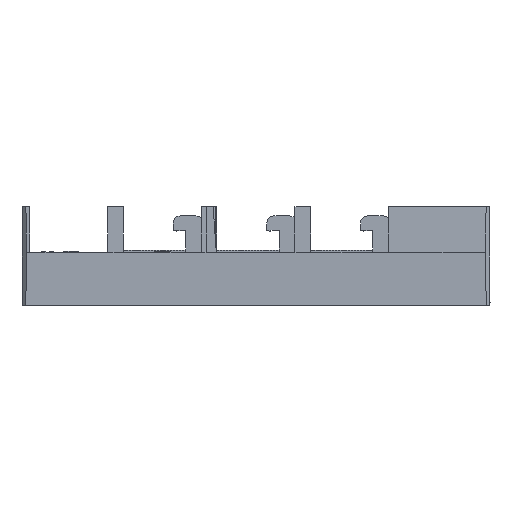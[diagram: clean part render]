
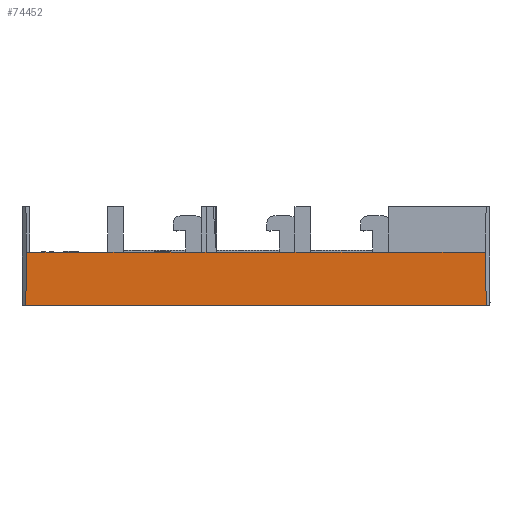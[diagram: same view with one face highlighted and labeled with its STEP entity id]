
A CAD part, front view. The second image highlights one B-rep face of the part: STEP entity #74452.
In plain terms, the highlighted planar face has unit normal (0, -1, -0.018).
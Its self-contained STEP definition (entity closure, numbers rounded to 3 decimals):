
#154 = CARTESIAN_POINT ( 'NONE',  ( 150., 0., -29. ) ) ;
#1019 = VECTOR ( 'NONE', #1410, 1000. ) ;
#1154 = VECTOR ( 'NONE', #34056, 1000. ) ;
#1410 = DIRECTION ( 'NONE',  ( -1., 0., 0. ) ) ;
#1574 = LINE ( 'NONE', #46582, #47438 ) ;
#1876 = PLANE ( 'NONE',  #106132 ) ;
#2160 = CARTESIAN_POINT ( 'NONE',  ( -2.044, 0., -29. ) ) ;
#3357 = EDGE_CURVE ( 'NONE', #7549, #37513, #43666, .T. ) ;
#6882 = VERTEX_POINT ( 'NONE', #92789 ) ;
#7549 = VERTEX_POINT ( 'NONE', #88640 ) ;
#9303 = LINE ( 'NONE', #30836, #30852 ) ;
#10624 = CARTESIAN_POINT ( 'NONE',  ( -2.044, 0., -29. ) ) ;
#11079 = DIRECTION ( 'NONE',  ( 0., -1., -0.017 ) ) ;
#13973 = EDGE_CURVE ( 'NONE', #37945, #118918, #17954, .T. ) ;
#17954 = LINE ( 'NONE', #91052, #88229 ) ;
#19338 = DIRECTION ( 'NONE',  ( 1., 0., 0. ) ) ;
#20402 = VERTEX_POINT ( 'NONE', #91091 ) ;
#20589 = CARTESIAN_POINT ( 'NONE',  ( 175., 0., -29. ) ) ;
#21362 = VERTEX_POINT ( 'NONE', #23190 ) ;
#22880 = VECTOR ( 'NONE', #78583, 1000. ) ;
#23190 = CARTESIAN_POINT ( 'NONE',  ( 118., 0., -29. ) ) ;
#25598 = CARTESIAN_POINT ( 'NONE',  ( -2.044, 0., -29. ) ) ;
#26398 = EDGE_CURVE ( 'NONE', #71722, #6882, #57553, .T. ) ;
#28693 = VECTOR ( 'NONE', #109434, 1000. ) ;
#30226 = VECTOR ( 'NONE', #45847, 1000. ) ;
#30751 = DIRECTION ( 'NONE',  ( -1., 0., 0. ) ) ;
#30836 = CARTESIAN_POINT ( 'NONE',  ( -2.044, 0., -29. ) ) ;
#30852 = VECTOR ( 'NONE', #93722, 1000. ) ;
#31934 = CARTESIAN_POINT ( 'NONE',  ( 297.593, 0.593, -63. ) ) ;
#32102 = ORIENTED_EDGE ( 'NONE', *, *, #63064, .T. ) ;
#32196 = DIRECTION ( 'NONE',  ( -0.017, -0.017, 1. ) ) ;
#34056 = DIRECTION ( 'NONE',  ( -1., 0., 0. ) ) ;
#36680 = CARTESIAN_POINT ( 'NONE',  ( 185., 0., -29. ) ) ;
#37513 = VERTEX_POINT ( 'NONE', #36680 ) ;
#37773 = ORIENTED_EDGE ( 'NONE', *, *, #13973, .T. ) ;
#37945 = VERTEX_POINT ( 'NONE', #43376 ) ;
#38642 = DIRECTION ( 'NONE',  ( -1., 0., 0. ) ) ;
#39475 = EDGE_LOOP ( 'NONE', ( #102449, #37773, #93204, #84647, #56278, #73470, #53663, #99179, #78578, #32102, #100368, #69255 ) ) ;
#42861 = CARTESIAN_POINT ( 'NONE',  ( 2.407, 0.593, -63. ) ) ;
#43376 = CARTESIAN_POINT ( 'NONE',  ( 5., 0., -29. ) ) ;
#43666 = LINE ( 'NONE', #2160, #86701 ) ;
#45847 = DIRECTION ( 'NONE',  ( 1., 0., 0. ) ) ;
#46582 = CARTESIAN_POINT ( 'NONE',  ( -2.044, 0.593, -63. ) ) ;
#47438 = VECTOR ( 'NONE', #19338, 1000. ) ;
#48674 = EDGE_CURVE ( 'NONE', #118918, #72944, #105383, .T. ) ;
#49526 = VECTOR ( 'NONE', #97892, 1000. ) ;
#50245 = VERTEX_POINT ( 'NONE', #20589 ) ;
#53024 = LINE ( 'NONE', #91025, #28693 ) ;
#53663 = ORIENTED_EDGE ( 'NONE', *, *, #3357, .T. ) ;
#54515 = LINE ( 'NONE', #154, #30226 ) ;
#56192 = VECTOR ( 'NONE', #32196, 1000. ) ;
#56278 = ORIENTED_EDGE ( 'NONE', *, *, #26398, .T. ) ;
#57553 = LINE ( 'NONE', #87870, #56192 ) ;
#60131 = CARTESIAN_POINT ( 'NONE',  ( 55., 0., -29. ) ) ;
#61728 = VERTEX_POINT ( 'NONE', #84241 ) ;
#63064 = EDGE_CURVE ( 'NONE', #21362, #20402, #64291, .T. ) ;
#63324 = DIRECTION ( 'NONE',  ( -1., 0., 0. ) ) ;
#64291 = LINE ( 'NONE', #70939, #22880 ) ;
#67470 = EDGE_CURVE ( 'NONE', #72944, #71722, #1574, .T. ) ;
#69255 = ORIENTED_EDGE ( 'NONE', *, *, #104911, .T. ) ;
#70939 = CARTESIAN_POINT ( 'NONE',  ( -2.044, 0., -29. ) ) ;
#71722 = VERTEX_POINT ( 'NONE', #31934 ) ;
#71981 = DIRECTION ( 'NONE',  ( 0., 0.017, -1. ) ) ;
#72944 = VERTEX_POINT ( 'NONE', #42861 ) ;
#73470 = ORIENTED_EDGE ( 'NONE', *, *, #114223, .T. ) ;
#74452 = ADVANCED_FACE ( 'NONE', ( #79925 ), #1876, .T. ) ;
#75668 = VECTOR ( 'NONE', #30751, 1000. ) ;
#77181 = LINE ( 'NONE', #25598, #1154 ) ;
#78578 = ORIENTED_EDGE ( 'NONE', *, *, #105284, .T. ) ;
#78583 = DIRECTION ( 'NONE',  ( -1., 0., 0. ) ) ;
#79460 = CARTESIAN_POINT ( 'NONE',  ( 3., 0., -29. ) ) ;
#79925 = FACE_OUTER_BOUND ( 'NONE', #39475, .T. ) ;
#81819 = EDGE_CURVE ( 'NONE', #20402, #61728, #53024, .T. ) ;
#84241 = CARTESIAN_POINT ( 'NONE',  ( 65., 0., -29. ) ) ;
#84335 = LINE ( 'NONE', #86436, #75668 ) ;
#84437 = CARTESIAN_POINT ( 'NONE',  ( -2.044, 0., -29. ) ) ;
#84647 = ORIENTED_EDGE ( 'NONE', *, *, #67470, .T. ) ;
#86436 = CARTESIAN_POINT ( 'NONE',  ( -2.044, 0., -29. ) ) ;
#86701 = VECTOR ( 'NONE', #38642, 1000. ) ;
#87870 = CARTESIAN_POINT ( 'NONE',  ( 297.593, 0.593, -63. ) ) ;
#88229 = VECTOR ( 'NONE', #63324, 1000. ) ;
#88640 = CARTESIAN_POINT ( 'NONE',  ( 235., 0., -29. ) ) ;
#91025 = CARTESIAN_POINT ( 'NONE',  ( -2.044, 0., -29. ) ) ;
#91052 = CARTESIAN_POINT ( 'NONE',  ( -2.044, 0., -29. ) ) ;
#91091 = CARTESIAN_POINT ( 'NONE',  ( 115., 0., -29. ) ) ;
#91403 = LINE ( 'NONE', #10624, #1019 ) ;
#92789 = CARTESIAN_POINT ( 'NONE',  ( 297., 0., -29. ) ) ;
#93204 = ORIENTED_EDGE ( 'NONE', *, *, #48674, .T. ) ;
#93722 = DIRECTION ( 'NONE',  ( -1., 0., 0. ) ) ;
#97892 = DIRECTION ( 'NONE',  ( -0.017, 0.017, -1. ) ) ;
#99179 = ORIENTED_EDGE ( 'NONE', *, *, #113113, .T. ) ;
#100368 = ORIENTED_EDGE ( 'NONE', *, *, #81819, .T. ) ;
#102449 = ORIENTED_EDGE ( 'NONE', *, *, #110780, .F. ) ;
#104911 = EDGE_CURVE ( 'NONE', #61728, #118993, #77181, .T. ) ;
#105082 = CARTESIAN_POINT ( 'NONE',  ( 3., 0., -29. ) ) ;
#105284 = EDGE_CURVE ( 'NONE', #50245, #21362, #84335, .T. ) ;
#105383 = LINE ( 'NONE', #79460, #49526 ) ;
#106132 = AXIS2_PLACEMENT_3D ( 'NONE', #84437, #11079, #71981 ) ;
#109434 = DIRECTION ( 'NONE',  ( -1., 0., 0. ) ) ;
#110780 = EDGE_CURVE ( 'NONE', #37945, #118993, #54515, .T. ) ;
#113113 = EDGE_CURVE ( 'NONE', #37513, #50245, #91403, .T. ) ;
#114223 = EDGE_CURVE ( 'NONE', #6882, #7549, #9303, .T. ) ;
#118918 = VERTEX_POINT ( 'NONE', #105082 ) ;
#118993 = VERTEX_POINT ( 'NONE', #60131 ) ;
